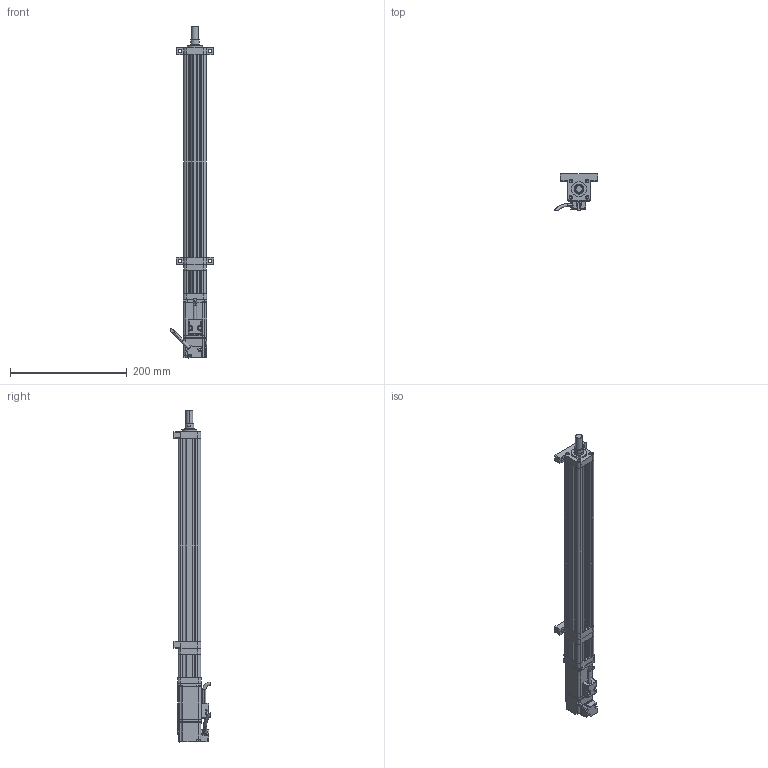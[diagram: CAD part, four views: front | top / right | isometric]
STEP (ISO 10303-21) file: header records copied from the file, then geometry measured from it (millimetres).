
FILE_DESCRIPTION (( 'STEP AP214' ), '1' );
FILE_NAME ('039-S300-D02-A-M2-C1-2.STEP', '2021-03-02T05:35:08', ( '' ), ( '' ), 'SwSTEP 2.0', 'SolidWorks 2018', '' );
FILE_SCHEMA (( 'AUTOMOTIVE_DESIGN' ));
Length unit declared in the file: millimetre
Products named in the file (9): ECMA-CX0401ES-40框號系列機種-100W低慣量系列; CMC039-DJZ; CMC039-DT; CMC039-ZLLJB; CMC039-GT; CMC039-HDB; 039-S300-D02-A-M2-C1-2; CMC039-QDB; CMC039-AZB
Assembly tree (8 placements, depth 2):
  039-S300-D02-A-M2-C1-2
    CMC039-GT
    CMC039-DT
    CMC039-ZLLJB
    CMC039-DJZ
    ECMA-CX0401ES-40框號系列機種-100W低慣量系列
    CMC039-AZB
    CMC039-HDB
    CMC039-QDB
Bounding box: 75.34 x 61.89 x 569.6 mm (x, y, z)
Volume: 565087.4 mm3; surface area: 186157.1 mm2
Topology: 8 solids, 16 shells, 738 faces, 1946 edges, 1225 vertices
Faces by surface type: cylinder 308, plane 307, bspline 84, cone 39
Entity records: 29028 total; most frequent: CARTESIAN_POINT 11402, ORIENTED_EDGE 3826, DIRECTION 3171, EDGE_CURVE 1913, VERTEX_POINT 1225, AXIS2_PLACEMENT_3D 1081, VECTOR 1009, LINE 1009
